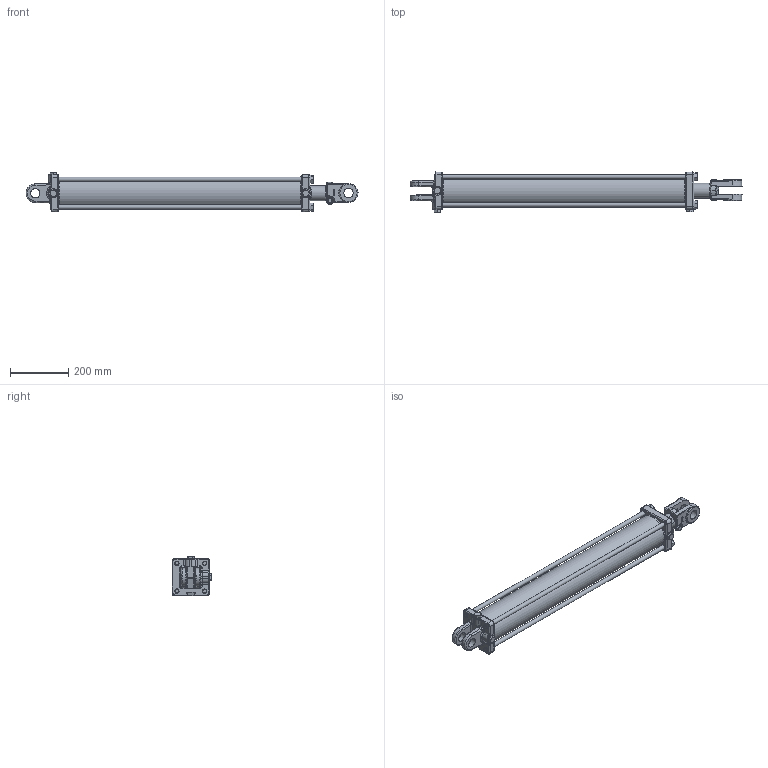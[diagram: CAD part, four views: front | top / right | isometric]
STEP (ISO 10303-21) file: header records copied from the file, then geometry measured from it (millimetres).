
FILE_DESCRIPTION((''),'2;1');
FILE_NAME('\\SRVR-ENG\EngSales\c400300BBDDA07b.stp','2012-10-03T10:56:14',('KneiflD'),(''),'Autodesk Inventor 2012','Autodesk Inventor 2012','');
FILE_SCHEMA(('AUTOMOTIVE_DESIGN { 1 0 10303 214 1 1 1 1 }'));
Length unit declared in the file: inch
Products named in the file (15): c400300BBDDA07b; 1419007SF; 011137438d; 220000212; 071900260V; 0819BBNSFV; 100000328; 100000327; 170002105; 220000223; 170301354V; 800006201V_35.5; 220000107V; 200300040V; 051932563AV
Assembly tree (19 placements, depth 3):
  c400300BBDDA07b
    1419007SF
    011137438d
    220000212
    071900260V
    0819BBNSFV
    100000328
      100000327
      170002105
      220000223
    170301354V  x4
      800006201V_35.5
      220000107V
    200300040V  x3
    051932563AV
Bounding box: 1137.3 x 137.01 x 137.01 mm (x, y, z)
Volume: 5365090.8 mm3; surface area: 1133701.9 mm2
Topology: 20 solids, 20 shells, 833 faces, 1911 edges, 1124 vertices
Faces by surface type: plane 239, cylinder 203, bspline 173, cone 157, torus 55, sphere 6
Full cylindrical faces by diameter (mm): 7.938 x3, 9.144 x1, 11.113 x2, 11.938 x2, 14.351 x4, 14.529 x4, 14.834 x4, 15.707 x1, 16.272 x4, 16.764 x3, 17.066 x2, 17.335 x1, 17.501 x2, 19.05 x3, 29.464 x1, 31.699 x1, 31.826 x1, 32.131 x4, 34.315 x1, 35.331 x1, 37.897 x1, 44.526 x2, 50.8 x1, 54 x1, 57.15 x1, 73.152 x1, 92.024 x1, 95.021 x1, 95.936 x1, 95.961 x1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
Entity records: 26398 total; most frequent: CARTESIAN_POINT 11514, ORIENTED_EDGE 2912, DIRECTION 2793, EDGE_CURVE 1456, AXIS2_PLACEMENT_3D 1166, VERTEX_POINT 931, EDGE_LOOP 883, FACE_OUTER_BOUND 693
